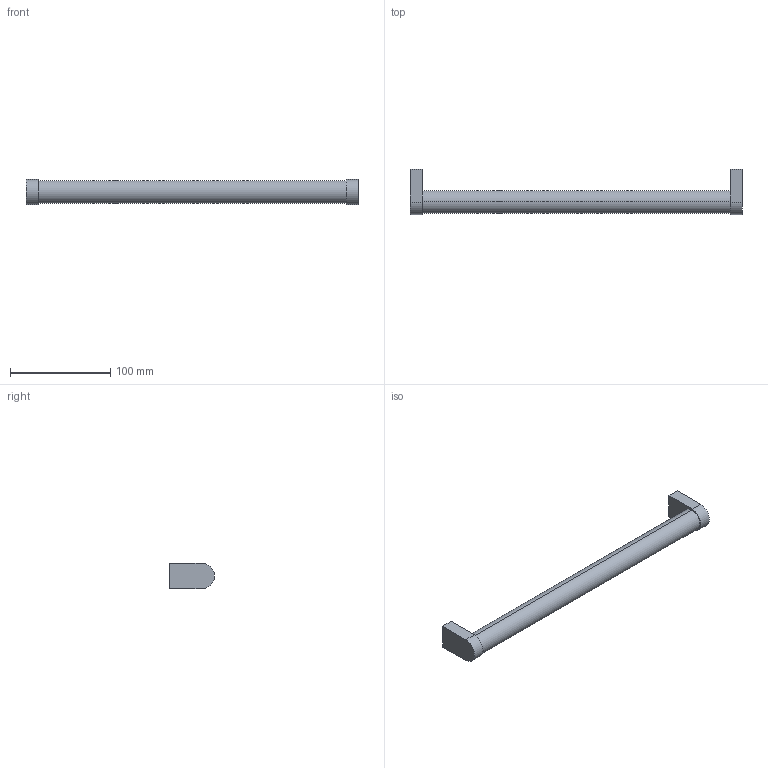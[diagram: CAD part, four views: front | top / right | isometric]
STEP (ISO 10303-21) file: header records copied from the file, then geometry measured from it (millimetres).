
FILE_DESCRIPTION( ( '' ), '1' );
FILE_NAME( 'C:/Documents and Settings/Sachin/Desktop/Sheet 10_1/stp/115078.stp', '2013-10-22T11:10:56', ( '' ), ( '' ), ' ', ' ', ' ' );
FILE_SCHEMA( ( 'CONFIG_CONTROL_DESIGN' ) );
Length unit declared in the file: millimetre
Products named in the file (1): 1
Bounding box: 332 x 45 x 25.68 mm (x, y, z)
Volume: 146782.8 mm3; surface area: 28532.7 mm2
Topology: 1 solids, 1 shells, 20 faces, 42 edges, 28 vertices
Faces by surface type: plane 12, cylinder 8
Entity records: 586 total; most frequent: DIRECTION 100, CARTESIAN_POINT 91, ORIENTED_EDGE 84, EDGE_CURVE 42, AXIS2_PLACEMENT_3D 37, VERTEX_POINT 28, LINE 26, VECTOR 26
